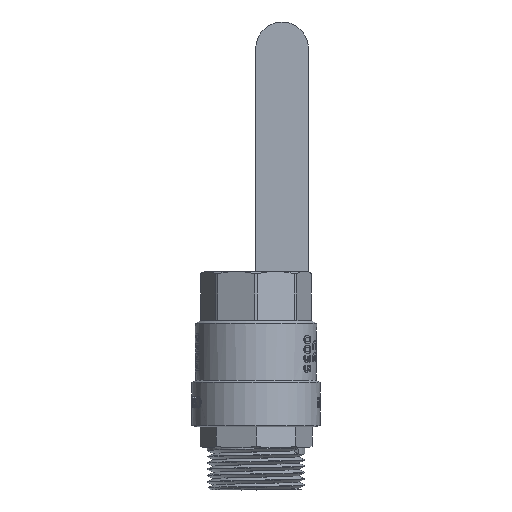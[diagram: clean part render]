
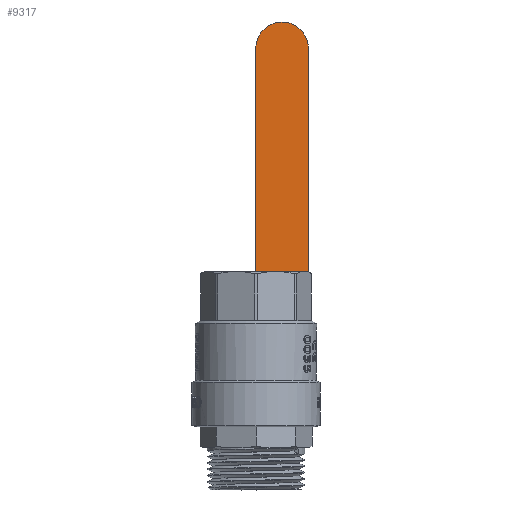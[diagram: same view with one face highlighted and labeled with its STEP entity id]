
A CAD part, front view. The second image highlights one B-rep face of the part: STEP entity #9317.
In plain terms, the highlighted planar face has unit normal (0, -1, 0).
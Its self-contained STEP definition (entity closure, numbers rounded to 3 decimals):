
#392=PLANE('',#9947);
#670=CIRCLE('',#9942,7.5);
#1255=FACE_OUTER_BOUND('',#1845,.T.);
#1845=EDGE_LOOP('',(#8537,#8538,#8539,#8540));
#2496=LINE('',#26567,#3150);
#2502=LINE('',#26583,#3156);
#2510=LINE('',#26597,#3164);
#3150=VECTOR('',#11785,10.);
#3156=VECTOR('',#11799,10.);
#3164=VECTOR('',#11813,10.);
#4466=VERTEX_POINT('',#26564);
#4467=VERTEX_POINT('',#26566);
#4471=VERTEX_POINT('',#26576);
#4473=VERTEX_POINT('',#26582);
#5835=EDGE_CURVE('',#4467,#4466,#2496,.T.);
#5840=EDGE_CURVE('',#4471,#4467,#670,.T.);
#5843=EDGE_CURVE('',#4473,#4471,#2502,.T.);
#5851=EDGE_CURVE('',#4473,#4466,#2510,.T.);
#8537=ORIENTED_EDGE('',*,*,#5835,.T.);
#8538=ORIENTED_EDGE('',*,*,#5851,.F.);
#8539=ORIENTED_EDGE('',*,*,#5843,.T.);
#8540=ORIENTED_EDGE('',*,*,#5840,.T.);
#9317=ADVANCED_FACE('',(#1255),#392,.T.);
#9942=AXIS2_PLACEMENT_3D('',#26577,#11792,#11793);
#9947=AXIS2_PLACEMENT_3D('',#26596,#11811,#11812);
#11785=DIRECTION('',(0.,0.,-1.));
#11792=DIRECTION('center_axis',(0.,-1.,0.));
#11793=DIRECTION('ref_axis',(-1.,0.,0.));
#11799=DIRECTION('',(0.,0.,1.));
#11811=DIRECTION('center_axis',(0.,-1.,0.));
#11812=DIRECTION('ref_axis',(0.,0.,-1.));
#11813=DIRECTION('',(-1.,0.,0.));
#26564=CARTESIAN_POINT('',(-0.083,42.402,30.735));
#26566=CARTESIAN_POINT('',(-0.083,42.402,94.706));
#26567=CARTESIAN_POINT('',(-0.083,42.402,100.789));
#26576=CARTESIAN_POINT('',(14.917,42.402,94.706));
#26577=CARTESIAN_POINT('Origin',(7.417,42.402,94.706));
#26582=CARTESIAN_POINT('',(14.917,42.402,30.735));
#26583=CARTESIAN_POINT('',(14.917,42.402,60.607));
#26596=CARTESIAN_POINT('Origin',(0.,42.402,106.873));
#26597=CARTESIAN_POINT('',(0.,42.402,30.735));
